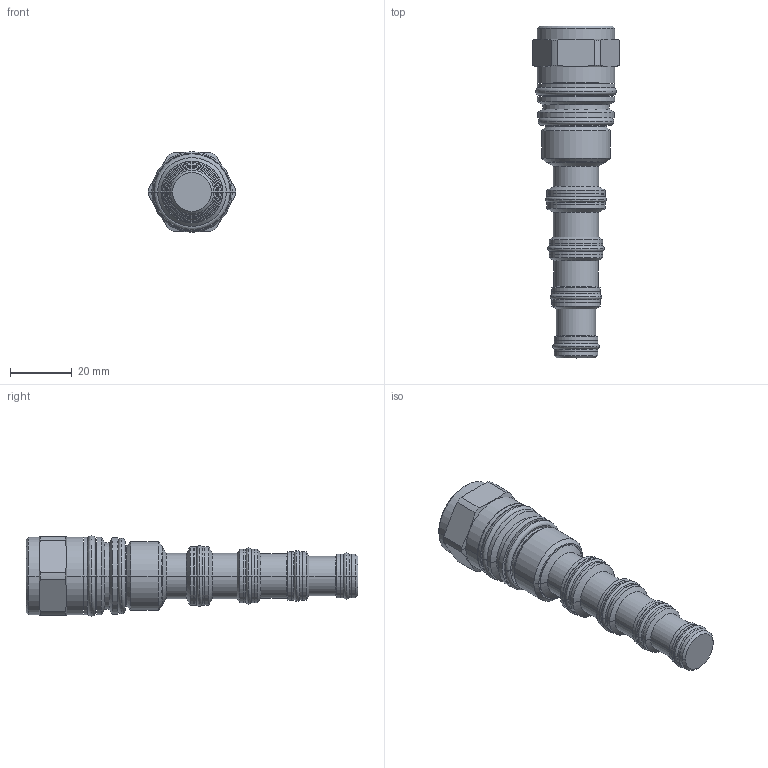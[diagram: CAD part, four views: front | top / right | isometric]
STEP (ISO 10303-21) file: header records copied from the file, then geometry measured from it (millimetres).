
FILE_DESCRIPTION((''),'2;1');
FILE_NAME('5261870_GENERIC_SW0001','2009-02-09T',('jcs'),(''),'PRO/ENGINEER BY PARAMETRIC TECHNOLOGY CORPORATION, 2008010','PRO/ENGINEER BY PARAMETRIC TECHNOLOGY CORPORATION, 2008010','');
FILE_SCHEMA(('CONFIG_CONTROL_DESIGN'));
Length unit declared in the file: inch
Products named in the file (1): 5261870_GENERIC_SW0001
Bounding box: 28.19 x 107.47 x 26.09 mm (x, y, z)
Volume: 31960.1 mm3; surface area: 12325.5 mm2
Topology: 8 solids, 8 shells, 236 faces, 484 edges, 272 vertices
Faces by surface type: cylinder 80, cone 48, revolution 48, plane 30, torus 30
Entity records: 7456 total; most frequent: CARTESIAN_POINT 2352, DIRECTION 1138, ORIENTED_EDGE 968, EDGE_CURVE 484, AXIS2_PLACEMENT_3D 478, CIRCLE 290, VERTEX_POINT 272, EDGE_LOOP 258
